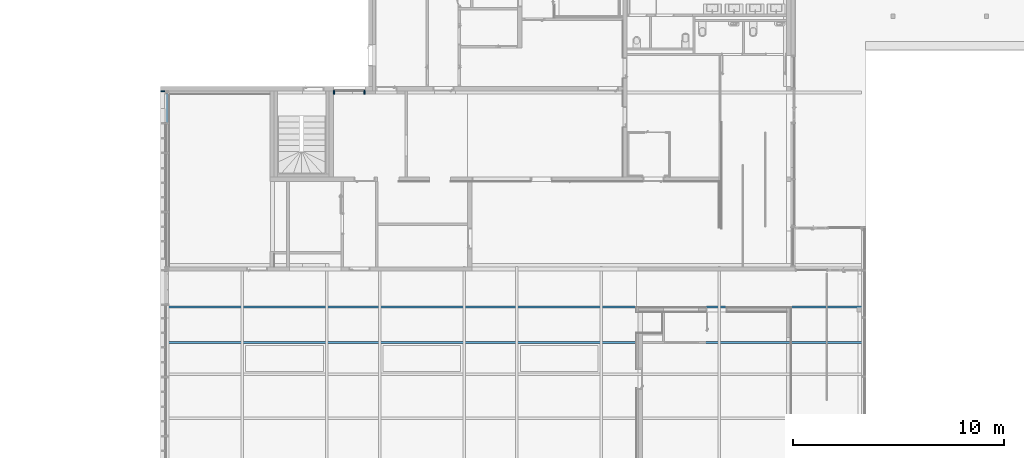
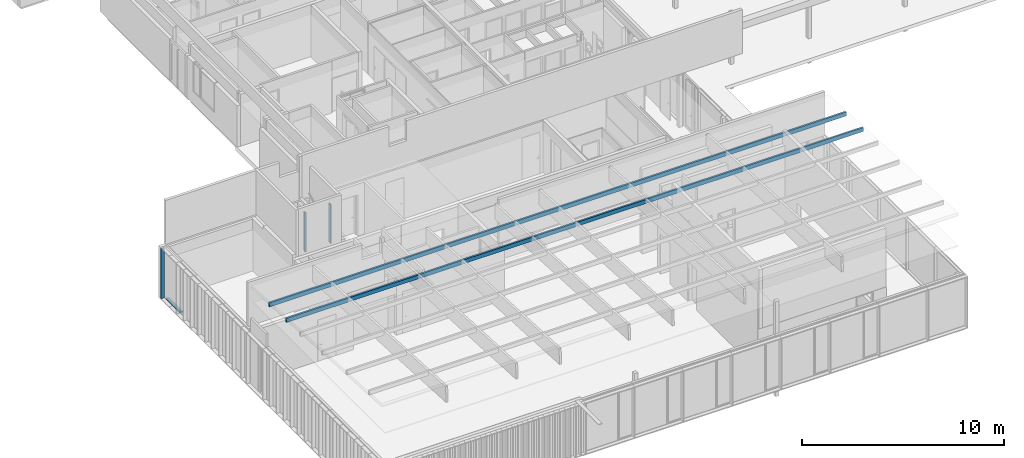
# One storey, part 7 of 240: 4 members, 2 beams, 3 elements without a shape of their own.
"""IFC2X3 building model written with IfcOpenShell, lengths in centimetres."""

from ifc_helpers import new_model, entity, si_unit, converted_unit, derived_unit, direction, frame, frame_2d, origin, origin_2d_with_axis, place, context, subcontext, project, spatial, polyline, rectangle, outline, extrude, source, transform, mapped, material, type_object, type_shapes, element, aggregate, save


model = new_model("IFC2X3")

# Units and contexts
model_context = context("Model", 3, precision=0.001, world=origin(), true_north=direction((6.12303176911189e-17, 1.0)))
body_context = subcontext(model_context, "Body", "Model", "MODEL_VIEW")
ifc_project = project(units=[si_unit("LENGTHUNIT", "METRE", prefix="CENTI"), si_unit("AREAUNIT", "SQUARE_METRE"), si_unit("VOLUMEUNIT", "CUBIC_METRE"), converted_unit("PLANEANGLEUNIT", "DEGREE", entity("IfcRatioMeasure", 0.0174532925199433), si_unit("PLANEANGLEUNIT", "RADIAN"), dimensions=[0, 0, 0, 0, 0, 0, 0]), si_unit("MASSUNIT", "GRAM", prefix="KILO"), derived_unit("MASSDENSITYUNIT", [(si_unit("MASSUNIT", "GRAM", prefix="KILO"), 1), (si_unit("LENGTHUNIT", "METRE"), -3)]), si_unit("TIMEUNIT", "SECOND"), si_unit("FREQUENCYUNIT", "HERTZ"), si_unit("THERMODYNAMICTEMPERATUREUNIT", "DEGREE_CELSIUS"), derived_unit("THERMALTRANSMITTANCEUNIT", [(si_unit("MASSUNIT", "GRAM", prefix="KILO"), 1), (si_unit("THERMODYNAMICTEMPERATUREUNIT", "KELVIN"), -1), (si_unit("TIMEUNIT", "SECOND"), -3)]), derived_unit("VOLUMETRICFLOWRATEUNIT", [(si_unit("LENGTHUNIT", "METRE"), 3), (si_unit("TIMEUNIT", "SECOND"), -1)]), si_unit("ELECTRICCURRENTUNIT", "AMPERE"), si_unit("ELECTRICVOLTAGEUNIT", "VOLT"), si_unit("POWERUNIT", "WATT"), si_unit("FORCEUNIT", "NEWTON", prefix="KILO"), si_unit("ILLUMINANCEUNIT", "LUX"), si_unit("LUMINOUSFLUXUNIT", "LUMEN"), si_unit("LUMINOUSINTENSITYUNIT", "CANDELA"), derived_unit("USERDEFINED", [(si_unit("MASSUNIT", "GRAM", prefix="KILO"), -1), (si_unit("LENGTHUNIT", "METRE"), -2), (si_unit("TIMEUNIT", "SECOND"), 3), (si_unit("LUMINOUSFLUXUNIT", "LUMEN"), 1)]), derived_unit("LINEARVELOCITYUNIT", [(si_unit("LENGTHUNIT", "METRE"), 1), (si_unit("TIMEUNIT", "SECOND"), -1)]), si_unit("PRESSUREUNIT", "PASCAL"), derived_unit("USERDEFINED", [(si_unit("LENGTHUNIT", "METRE"), -2), (si_unit("MASSUNIT", "GRAM", prefix="KILO"), 1), (si_unit("TIMEUNIT", "SECOND"), -2)])], contexts=[model_context])

# Site, building, storey
site_placement = place(None, frame((-2781.94577612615, 7442.24238424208, 0.0)))
site = spatial("IfcSite", under=ifc_project, at=site_placement, Name="Default", CompositionType="ELEMENT")
building_placement = place(site_placement, origin())
building = spatial("IfcBuilding", under=site, at=building_placement, CompositionType="ELEMENT")
storey_placement = place(building_placement, origin())
storey = spatial("IfcBuildingStorey", under=building, at=storey_placement, Name="N00 - COO", CompositionType="ELEMENT", Elevation=0.0)

# Curtain wall, member
curtain_wall_type_1 = type_object("IfcCurtainWallType", Name="Mur-rideau:07 - mur rideau trame 280 cm", PredefinedType="NOTDEFINED")
curtain_wall_1_placement = place(building_placement, origin())
curtain_wall_1 = element("IfcCurtainWall", 1, at=curtain_wall_1_placement, inside=storey, type_object=curtain_wall_type_1, Name="Mur-rideau:07 - mur rideau trame 280 cm", ObjectType="Mur-rideau:07 - mur rideau trame 280 cm")
ifc_material_1 = material(Name="Aluminium")
member_type_1 = type_object("IfcMemberType", Name="150 x 25mm Détails", PredefinedType="MEMBER")
shared_shape_1 = source(origin(), body_context, "Body", "SweptSolid", [
    extrude(outline(polyline([(-13.3333333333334, -3.24999999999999), (0.166666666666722, -3.24999999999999), (0.166666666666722, -0.868749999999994), (3.66666666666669, -0.868749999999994), (3.66666666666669, -3.25), (5.66666666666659, -3.25), (5.66666666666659, 3.24999999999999), (3.66666666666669, 3.24999999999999), (3.66666666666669, 0.86874999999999), (0.166666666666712, 0.86874999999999), (0.166666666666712, 3.25000000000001), (-13.3333333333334, 3.25000000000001), (-13.3333333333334, -3.24999999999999)])), frame((-3.24999999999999, 1.96666666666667, -140.0), z_axis=(0.0, 0.0, 1.0), x_axis=(0.0, -1.0, 0.0)), (0.0, 0.0, 1.0), 140.0),
])
type_shapes(member_type_1, [shared_shape_1])
member_1_placement = place(building_placement, frame((-11860.1844031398, -3526.00027342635, 0.0), z_axis=(0.0, -1.0, 0.0), x_axis=(0.0, 0.0, -1.0)))
member_1 = element("IfcMember", 2, at=member_1_placement, type_object=member_type_1, material=ifc_material_1, Name="Meneau rectangulaire:150 x 25mm Détails", ObjectType="Meneau rectangulaire:150 x 25mm Détails", context=body_context, shape_type="MappedRepresentation", body=[
    mapped(shared_shape_1, transform((0.0, 0.0, 0.0), scale=1.0)),
])
aggregate(curtain_wall_1, [member_1])

curtain_wall_type_2 = type_object("IfcCurtainWallType", Name="Mur-rideau:Epines - 200x50mm", PredefinedType="NOTDEFINED")
curtain_wall_2_placement = place(building_placement, origin())
curtain_wall_2 = element("IfcCurtainWall", 3, at=curtain_wall_2_placement, inside=storey, type_object=curtain_wall_type_2, Name="Mur-rideau:Epines - 200x50mm", ObjectType="Mur-rideau:Epines - 200x50mm")
member_type_2 = type_object("IfcMemberType", Name="200x50 mm", PredefinedType="MEMBER")
shared_shape_2 = source(origin(), body_context, "Body", "SweptSolid", [
    extrude(rectangle(XDim=20.0, YDim=5.0, at=origin_2d_with_axis()), frame((-2.5, 0.0, -303.0), z_axis=(0.0, 0.0, 1.0), x_axis=(0.0, -1.0, 0.0)), (0.0, 0.0, 1.0), 303.000000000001),
])
type_shapes(member_type_2, [shared_shape_2])
member_2_placement = place(building_placement, frame((-11874.3505746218, -3372.52180651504, 5.0), z_axis=(0.0, 0.0, -1.0), x_axis=(0.0, 1.0, 0.0)))
member_2 = element("IfcMember", 4, at=member_2_placement, type_object=member_type_2, material=ifc_material_1, Name="Meneau rectangulaire:200x50 mm", ObjectType="Meneau rectangulaire:200x50 mm", context=body_context, shape_type="MappedRepresentation", body=[
    mapped(shared_shape_2, transform((0.0, 0.0, 0.0), scale=1.0)),
])
aggregate(curtain_wall_2, [member_2])

# Curtain wall, members
curtain_wall_type_3 = type_object("IfcCurtainWallType", Name="Mur-rideau:07 - mur rideau trame 90 cm", PredefinedType="NOTDEFINED")
curtain_wall_3_placement = place(building_placement, origin())
curtain_wall_3 = element("IfcCurtainWall", 5, at=curtain_wall_3_placement, inside=storey, type_object=curtain_wall_type_3, Name="Mur-rideau:07 - mur rideau trame 90 cm", ObjectType="Mur-rideau:07 - mur rideau trame 90 cm")
member_type_3 = type_object("IfcMemberType", Name="150 x 25mm Détails", PredefinedType="MEMBER")
shared_shape_3 = source(origin(), body_context, "Body", "SweptSolid", [
    extrude(outline(polyline([(-13.3333333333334, -3.25000000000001), (0.166666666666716, -3.25000000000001), (0.166666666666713, -0.86874999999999), (3.66666666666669, -0.86874999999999), (3.66666666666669, -3.24999999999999), (5.66666666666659, -3.24999999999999), (5.66666666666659, 3.25), (3.66666666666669, 3.25), (3.66666666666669, 0.868749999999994), (0.166666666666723, 0.868749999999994), (0.166666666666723, 3.25000000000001), (-13.3333333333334, 3.24999999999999), (-13.3333333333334, -3.25000000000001)])), frame((-3.24999999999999, 1.96666666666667, -237.0), z_axis=(0.0, 0.0, 1.0), x_axis=(0.0, -1.0, 0.0)), (0.0, 0.0, 1.0), 237.0),
])
type_shapes(member_type_3, [shared_shape_3])
member_3_placement = place(building_placement, frame((-10915.6130476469, -3372.52180651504, 6.49999999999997), z_axis=(0.0, 0.0, -1.0), x_axis=(1.0, 0.0, 0.0)))
member_3 = element("IfcMember", 6, at=member_3_placement, type_object=member_type_3, material=ifc_material_1, Name="Meneau rectangulaire:150 x 25mm Détails", ObjectType="Meneau rectangulaire:150 x 25mm Détails", context=body_context, shape_type="MappedRepresentation", body=[
    mapped(shared_shape_3, transform((0.0, 0.0, 0.0), scale=1.0)),
])
member_type_4 = type_object("IfcMemberType", Name="150 x 25mm Détails", PredefinedType="MEMBER")
shared_shape_4 = source(origin(), body_context, "Body", "SweptSolid", [
    extrude(outline(polyline([(-13.3333333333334, -3.24999999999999), (0.166666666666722, -3.24999999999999), (0.166666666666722, -0.868749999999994), (3.66666666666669, -0.868749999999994), (3.66666666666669, -3.25), (5.66666666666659, -3.25), (5.66666666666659, 3.24999999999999), (3.66666666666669, 3.24999999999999), (3.66666666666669, 0.86874999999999), (0.166666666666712, 0.86874999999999), (0.166666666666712, 3.25000000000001), (-13.3333333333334, 3.25000000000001), (-13.3333333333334, -3.24999999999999)])), frame((-3.24999999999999, 1.96666666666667, -237.0), z_axis=(0.0, 0.0, 1.0), x_axis=(0.0, -1.0, 0.0)), (0.0, 0.0, 1.0), 237.0),
])
type_shapes(member_type_4, [shared_shape_4])
member_4_placement = place(building_placement, frame((-11066.882807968, -3372.52180651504, 243.5), z_axis=(0.0, 0.0, 1.0), x_axis=(-1.0, 0.0, 0.0)))
member_4 = element("IfcMember", 7, at=member_4_placement, type_object=member_type_4, material=ifc_material_1, Name="Meneau rectangulaire:150 x 25mm Détails", ObjectType="Meneau rectangulaire:150 x 25mm Détails", context=body_context, shape_type="MappedRepresentation", body=[
    mapped(shared_shape_4, transform((0.0, 0.0, 0.0), scale=1.0)),
])
aggregate(curtain_wall_3, [member_3, member_4])

# Beams
ifc_material_2 = material(Name="Bois - Bois de construction de dimensions courantes")
beam_type = type_object("IfcBeamType", Name="SR-10x24", PredefinedType="BEAM")
beam_1_placement = place(storey_placement, frame((-11855.3563818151, -4563.48097835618, 598.400246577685)))
element("IfcBeam", 8, at=beam_1_placement, inside=storey, type_object=beam_type, material=ifc_material_2, Name="Poutre - Bois de construction de dimensions courantes:SR-10x24", ObjectType="Poutre - Bois de construction de dimensions courantes:SR-10x24", context=body_context, shape_type="SweptSolid", body=[
    extrude(rectangle(XDim=24.0, YDim=10.0000000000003, at=frame_2d((0.0, 1.08286712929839e-11), x_axis=(1.0, 0.0))), frame((0.0, 0.0, -12.0), z_axis=(1.0, 0.0, 0.0), x_axis=(0.0, 0.0, -1.0)), (0.0, 0.0, 1.0), 3296.36900091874),
])
beam_2_placement = place(storey_placement, frame((-11855.3563818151, -4394.63074304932, 589.65599627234)))
element("IfcBeam", 9, at=beam_2_placement, inside=storey, type_object=beam_type, material=ifc_material_2, Name="Poutre - Bois de construction de dimensions courantes:SR-10x24", ObjectType="Poutre - Bois de construction de dimensions courantes:SR-10x24", context=body_context, shape_type="SweptSolid", body=[
    extrude(rectangle(XDim=24.0, YDim=10.0000000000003, at=frame_2d((0.0, 9.9626973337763e-12), x_axis=(1.0, 0.0))), frame((0.0198178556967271, 0.0, -12.0), z_axis=(1.0, 0.0, 0.0), x_axis=(0.0, 0.0, -1.0)), (0.0, 0.0, 1.0), 3296.32936520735),
])

save(model, "model.ifc")
